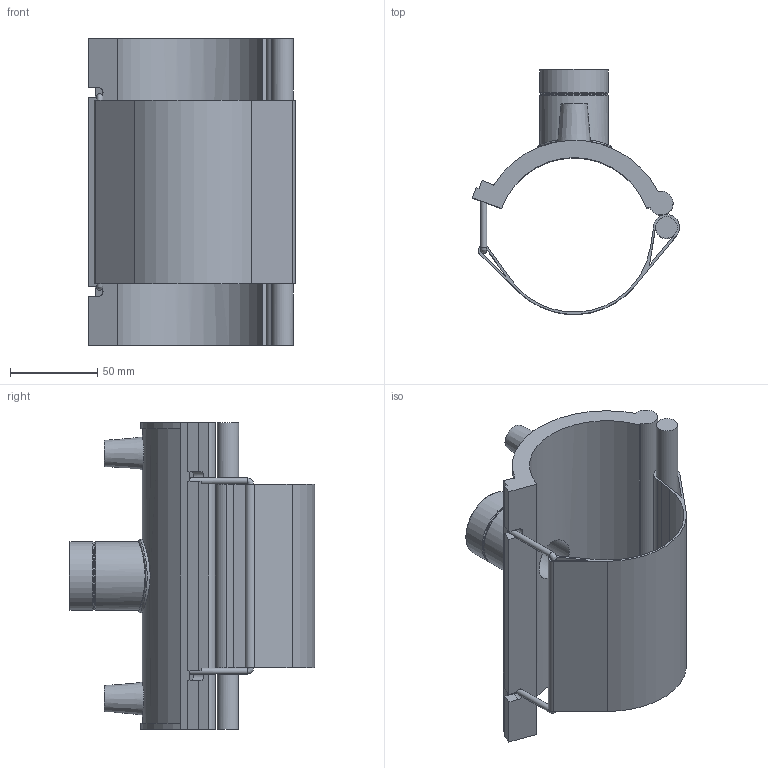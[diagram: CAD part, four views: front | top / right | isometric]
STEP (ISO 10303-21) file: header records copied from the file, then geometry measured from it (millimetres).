
FILE_DESCRIPTION(/* description */ ('PLASSON TRANSITION SADDLE 3''''IPS x 1"NPT'),/* implementation_level */ '2;1');
FILE_NAME(/* name */ 'C:\Dropbox\KIMPROJECTS-Inventor 2019\99-16-3568-Processing Inch\ASTM ElectroFusion 2021\5938B\5938B00303045.ipt.stp',/* time_stamp */ '2021-08-30T09:51:01+03:00',/* author */ ('KIM'),/* organization */ (''),/* preprocessor_version */ 'ST-DEVELOPER v17.2',/* originating_system */ 'Autodesk Inventor 2019',/* authorisation */ '');
FILE_SCHEMA (('AUTOMOTIVE_DESIGN { 1 0 10303 214 3 1 1 }'));
Length unit declared in the file: inch
Products named in the file (1): 5938B00303045
Bounding box: 118.87 x 140.74 x 176.02 mm (x, y, z)
Volume: 307389.9 mm3; surface area: 118112.8 mm2
Topology: 1 solids, 1 shells, 80 faces, 208 edges, 136 vertices
Faces by surface type: plane 42, cylinder 30, cone 5, torus 2, bspline 1
Full cylindrical faces by diameter (mm): 3.548 x2, 4 x2, 10 x2, 12.35 x1, 24.233 x1, 30.291 x1, 38.378 x1, 39.378 x2, 42.407 x1
Entity records: 2894 total; most frequent: CARTESIAN_POINT 815, DIRECTION 432, ORIENTED_EDGE 418, EDGE_CURVE 209, AXIS2_PLACEMENT_3D 158, VERTEX_POINT 136, LINE 116, VECTOR 116
